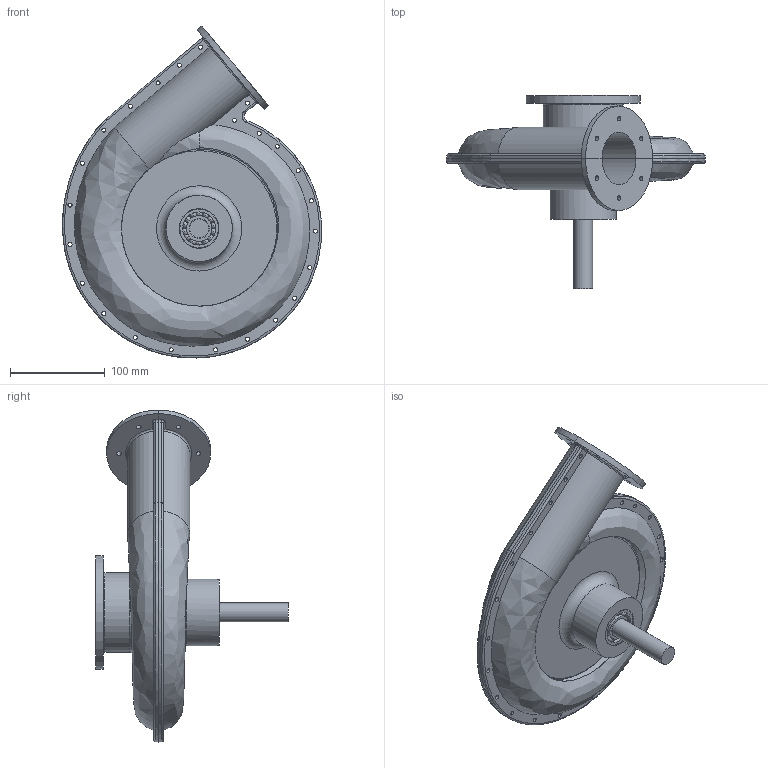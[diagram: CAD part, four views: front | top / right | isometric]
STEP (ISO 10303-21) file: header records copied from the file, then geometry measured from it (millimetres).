
FILE_DESCRIPTION(/* description */ (''),/* implementation_level */ '2;1');
FILE_NAME(/* name */ 'assieme pompa centrifuga.stp',/* time_stamp */ '2025-04-06T15:28:58+02:00',/* author */ ('R5800u'),/* organization */ (''),/* preprocessor_version */ 'ST-DEVELOPER v20',/* originating_system */ 'Autodesk Inventor 2025',/* authorisation */ '');
FILE_SCHEMA (('AUTOMOTIVE_DESIGN { 1 0 10303 214 3 1 1 }'));
Length unit declared in the file: millimetre
Products named in the file (9): assieme pompa centrifuga; pompa centrifuga; cassa; cassa2; albero_20mm; %3% BS 290 - SKF 6004; DIN 7603 - A20 x 24  (lt); oring 20mm; AS 1420 - 1973 - M8 x 35
Assembly tree (10 placements, depth 2):
  assieme pompa centrifuga
    pompa centrifuga
    cassa
    cassa2
    albero_20mm
    %3% BS 290 - SKF 6004  x2
    DIN 7603 - A20 x 24  (lt)
    oring 20mm  x2
    AS 1420 - 1973 - M8 x 35
Bounding box: 273.31 x 203.61 x 350.31 mm (x, y, z)
Volume: 1366519.5 mm3; surface area: 504146.1 mm2
Topology: 10 solids, 10 shells, 333 faces, 969 edges, 629 vertices
Faces by surface type: cylinder 150, plane 58, torus 56, bspline 43, sphere 14, cone 12
Full cylindrical faces by diameter (mm): 4.3 x48, 4.917 x6, 6.647 x7, 8 x1, 8.4 x1, 13 x1, 15 x1, 20 x6, 20.2 x1, 21 x3, 23.9 x1, 24 x2, 25 x2, 27.04 x4, 34.96 x4, 42 x3, 60 x1, 70 x2, 74 x1, 84 x1, 120 x1, 160 x1
Entity records: 25364 total; most frequent: CARTESIAN_POINT 17480, ORIENTED_EDGE 1610, DIRECTION 1468, EDGE_CURVE 805, AXIS2_PLACEMENT_3D 631, VERTEX_POINT 531, EDGE_LOOP 455, CIRCLE 363
